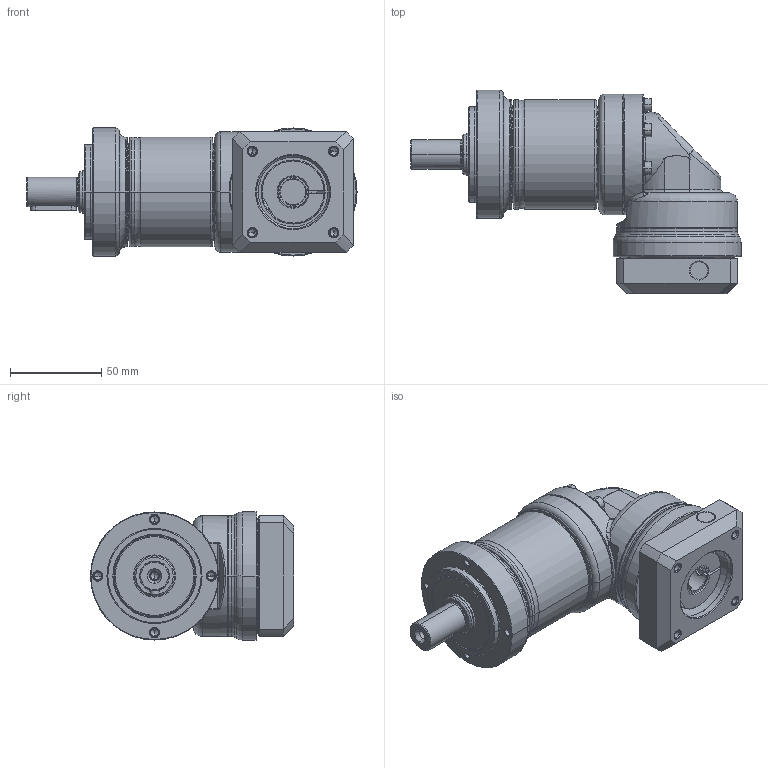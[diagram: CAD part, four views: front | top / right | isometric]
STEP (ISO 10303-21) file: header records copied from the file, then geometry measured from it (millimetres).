
FILE_DESCRIPTION((''),'2;1');
FILE_NAME('PE2R-070_2ST_14-P0411300101_ASM','2016-05-20T',('d00435'),(''),'PRO/ENGINEER BY PARAMETRIC TECHNOLOGY CORPORATION, 2008410','PRO/ENGINEER BY PARAMETRIC TECHNOLOGY CORPORATION, 2008410','');
FILE_SCHEMA(('CONFIG_CONTROL_DESIGN'));
Length unit declared in the file: millimetre
Products named in the file (12): P1323210001; P0251200001; P0350201001; P1349200001; P1017200001; P0713202001; P0503300005; P1350200201; P0411300101; P1702300001; 2111B104020; PE2R-070_2ST_14-P0411300101_ASM
Assembly tree (16 placements, depth 2):
  PE2R-070_2ST_14-P0411300101_ASM
    P1323210001
    P0251200001
    P0350201001
    P1349200001
    P1017200001
    P0713202001
    P0503300005
    P1350200201
    P0411300101
    P1702300001
    2111B104020  x6
Bounding box: 180.5 x 111 x 70 mm (x, y, z)
Volume: 388404.8 mm3; surface area: 121655.9 mm2
Topology: 16 solids, 32 shells, 860 faces, 1907 edges, 1123 vertices
Faces by surface type: cylinder 281, cone 226, plane 211, torus 110, bspline 32
Entity records: 24970 total; most frequent: CARTESIAN_POINT 9134, DIRECTION 3576, ORIENTED_EDGE 2982, AXIS2_PLACEMENT_3D 1526, EDGE_CURVE 1523, VERTEX_POINT 923, CIRCLE 825, EDGE_LOOP 798
